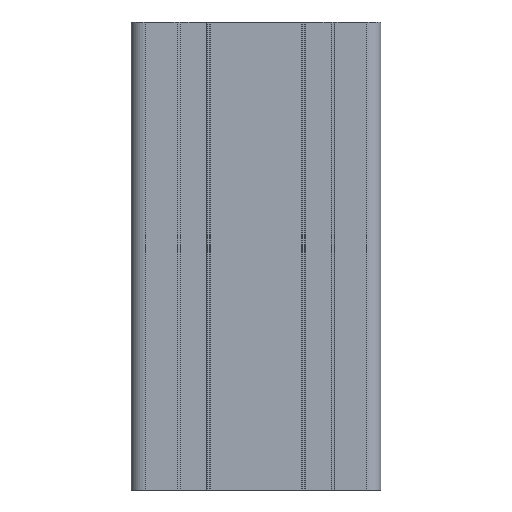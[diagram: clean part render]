
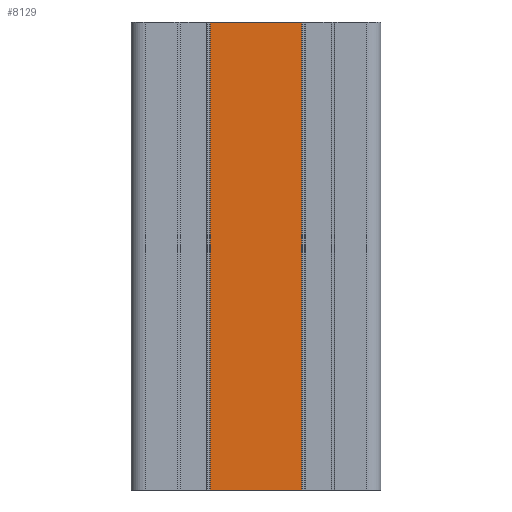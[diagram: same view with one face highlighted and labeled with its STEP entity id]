
A CAD part, front view. The second image highlights one B-rep face of the part: STEP entity #8129.
In plain terms, the highlighted planar face has unit normal (0, -1, 0).
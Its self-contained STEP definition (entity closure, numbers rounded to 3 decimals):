
#8071=CARTESIAN_POINT('',(53.235,99.666,150.0));
#8072=VERTEX_POINT('',#8071);
#8080=CARTESIAN_POINT('',(53.235,99.666,0.0));
#8081=VERTEX_POINT('',#8080);
#8082=CARTESIAN_POINT('',(53.235,99.666,0.0));
#8083=DIRECTION('',(0.0,0.0,1.0));
#8084=VECTOR('',#8083,150.0);
#8085=LINE('',#8082,#8084);
#8086=EDGE_CURVE('',#8081,#8072,#8085,.T.);
#8099=CARTESIAN_POINT('',(43.035,99.666,0.0));
#8100=DIRECTION('',(0.0,-1.0,0.0));
#8101=DIRECTION('',(0.0,0.0,-1.0));
#8102=AXIS2_PLACEMENT_3D('',#8099,#8100,#8101);
#8103=PLANE('',#8102);
#8104=CARTESIAN_POINT('',(23.835,99.666,150.0));
#8105=VERTEX_POINT('',#8104);
#8106=CARTESIAN_POINT('',(53.235,99.666,150.0));
#8107=DIRECTION('',(-1.0,0.0,0.0));
#8108=VECTOR('',#8107,29.4);
#8109=LINE('',#8106,#8108);
#8110=EDGE_CURVE('',#8072,#8105,#8109,.T.);
#8111=ORIENTED_EDGE('',*,*,#8110,.T.);
#8112=CARTESIAN_POINT('',(23.835,99.666,0.0));
#8113=VERTEX_POINT('',#8112);
#8114=CARTESIAN_POINT('',(23.835,99.666,0.0));
#8115=DIRECTION('',(0.0,0.0,1.0));
#8116=VECTOR('',#8115,150.0);
#8117=LINE('',#8114,#8116);
#8118=EDGE_CURVE('',#8113,#8105,#8117,.T.);
#8119=ORIENTED_EDGE('',*,*,#8118,.F.);
#8120=CARTESIAN_POINT('',(53.235,99.666,0.0));
#8121=DIRECTION('',(-1.0,0.0,0.0));
#8122=VECTOR('',#8121,29.4);
#8123=LINE('',#8120,#8122);
#8124=EDGE_CURVE('',#8081,#8113,#8123,.T.);
#8125=ORIENTED_EDGE('',*,*,#8124,.F.);
#8126=ORIENTED_EDGE('',*,*,#8086,.T.);
#8127=EDGE_LOOP('',(#8111,#8119,#8125,#8126));
#8128=FACE_OUTER_BOUND('',#8127,.T.);
#8129=ADVANCED_FACE('',(#8128),#8103,.T.);
